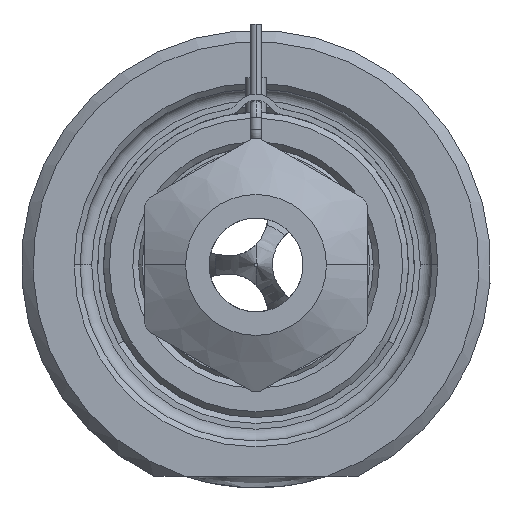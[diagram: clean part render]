
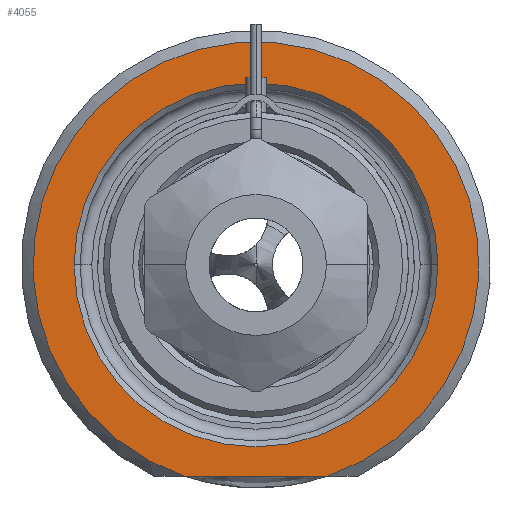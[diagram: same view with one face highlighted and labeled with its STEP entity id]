
A CAD part, front view. The second image highlights one B-rep face of the part: STEP entity #4055.
In plain terms, the highlighted planar face has unit normal (0, -1, 0).
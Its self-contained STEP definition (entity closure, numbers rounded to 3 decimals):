
#1=DIRECTION('',(1.,0.,0.));
#2=VECTOR('',#1,12.166);
#3=CARTESIAN_POINT('',(-6.083,0.,-18.));
#4=LINE('',#3,#2);
#5=CARTESIAN_POINT('',(0.,0.,0.));
#6=DIRECTION('',(0.,1.,0.));
#7=DIRECTION('',(-1.,0.,0.));
#8=AXIS2_PLACEMENT_3D('',#5,#6,#7);
#10=CARTESIAN_POINT('',(0.,0.,0.));
#11=DIRECTION('',(0.,1.,0.));
#12=DIRECTION('',(1.,0.,0.));
#13=AXIS2_PLACEMENT_3D('',#10,#11,#12);
#264=CARTESIAN_POINT('',(0.,0.,0.));
#265=DIRECTION('',(0.,-1.,0.));
#266=DIRECTION('',(0.32,0.,-0.947));
#267=AXIS2_PLACEMENT_3D('',#264,#265,#266);
#3421=CARTESIAN_POINT('',(-15.5,0.,0.));
#3422=CARTESIAN_POINT('',(15.5,0.,0.));
#3423=VERTEX_POINT('',#3421);
#3424=VERTEX_POINT('',#3422);
#3479=CARTESIAN_POINT('',(-6.083,0.,-18.));
#3480=CARTESIAN_POINT('',(6.083,0.,-18.));
#3481=VERTEX_POINT('',#3479);
#3482=VERTEX_POINT('',#3480);
#4038=CARTESIAN_POINT('',(0.,0.,0.));
#4039=DIRECTION('',(0.,-1.,0.));
#4040=DIRECTION('',(1.,0.,0.));
#4041=AXIS2_PLACEMENT_3D('',#4038,#4039,#4040);
#4042=PLANE('',#4041);
#4044=ORIENTED_EDGE('',*,*,#4043,.F.);
#4046=ORIENTED_EDGE('',*,*,#4045,.F.);
#4047=EDGE_LOOP('',(#4044,#4046));
#4048=FACE_OUTER_BOUND('',#4047,.F.);
#4050=ORIENTED_EDGE('',*,*,#4049,.F.);
#4052=ORIENTED_EDGE('',*,*,#4051,.F.);
#4053=EDGE_LOOP('',(#4050,#4052));
#4054=FACE_BOUND('',#4053,.F.);
#4055=ADVANCED_FACE('',(#4048,#4054),#4042,.T.);
#9=CIRCLE('',#8,15.5);
#14=CIRCLE('',#13,15.5);
#268=CIRCLE('',#267,19.);
#4043=EDGE_CURVE('',#3481,#3482,#4,.T.);
#4045=EDGE_CURVE('',#3482,#3481,#268,.T.);
#4049=EDGE_CURVE('',#3423,#3424,#9,.T.);
#4051=EDGE_CURVE('',#3424,#3423,#14,.T.);
